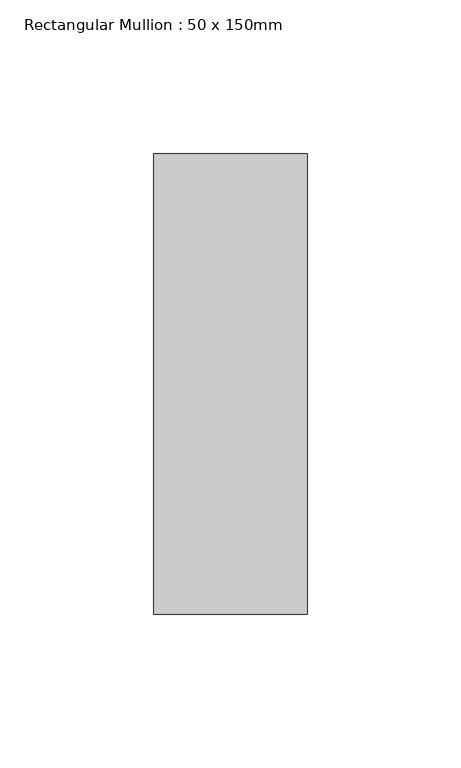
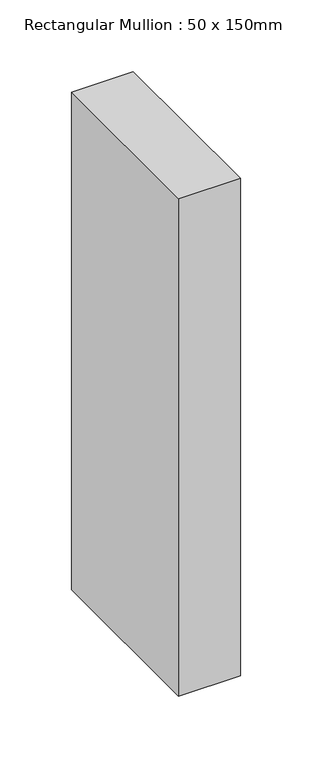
"""IFC4 building model written with IfcOpenShell, lengths in millimetres: member geometry, Rectangular Mullion : 50 x 150mm."""

from ifc_helpers import new_model, si_unit, frame, origin, place, context, project, spatial, polyline, outline, extrude, source, transform, mapped, element, save


def rectangular_mullion_50_x_150mm_e71c6a5f(model_context):
    return source(origin(), model_context, "Body", "SweptSolid", [
        extrude(outline(polyline([(0.0, 75.0), (0.0, -75.0), (-50.0, -75.0), (-50.0, 75.0), (0.0, 75.0)])), frame((0.0, 0.0, -425.0000002), z_axis=(0.0, 0.0, 1.0), x_axis=(1.0, 0.0, 0.0)), (0.0, 0.0, 1.0), 425.0000002),
    ])


if __name__ == "__main__":
    model = new_model("IFC4")
    model_context = context("Model", 3, world=origin())
    ifc_project = project(units=[si_unit("LENGTHUNIT", "METRE", prefix="MILLI")], contexts=[model_context])
    site = spatial("IfcSite", under=ifc_project)
    building = spatial("IfcBuilding", under=site)
    placement = place(None, origin())
    rectangular_mullion_50_x_150mm_shape = rectangular_mullion_50_x_150mm_e71c6a5f(model_context)
    element("IfcMember", 1, ObjectType="Rectangular Mullion : 50 x 150mm", at=placement, inside=building, context=model_context, shape_type="MappedRepresentation", body=[
        mapped(rectangular_mullion_50_x_150mm_shape, transform((0.0, 0.0, 0.0), x_axis=(1.0, 0.0, 0.0), y_axis=(0.0, 1.0, 0.0), z_axis=(0.0, 0.0, 1.0))),
    ])
    save(model, "model.ifc")
